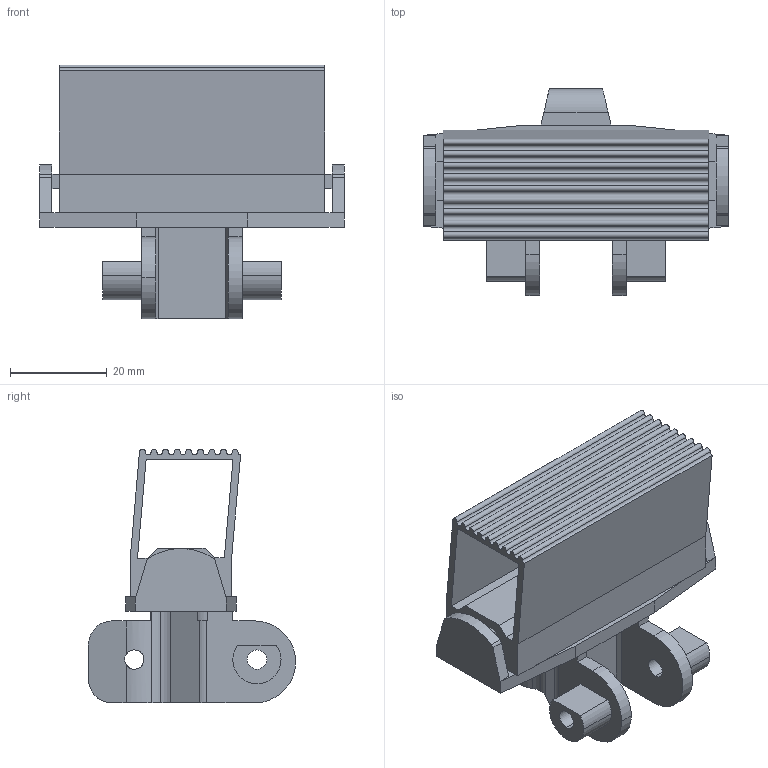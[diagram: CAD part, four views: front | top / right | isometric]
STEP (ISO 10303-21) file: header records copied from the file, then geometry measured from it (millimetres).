
FILE_DESCRIPTION (( 'STEP AP214' ), '1' );
FILE_NAME ('FSWT-5C.STEP', '2011-09-19T12:19:12', ( '.' ), ( '' ), 'SwSTEP 2.0', 'SolidWorks 2010', '' );
FILE_SCHEMA (( 'AUTOMOTIVE_DESIGN' ));
Length unit declared in the file: millimetre
Products named in the file (1): FSWT-5C
Bounding box: 63 x 42.9 x 52.6 mm (x, y, z)
Surface area: 19367.1 mm2 (no closed solid volume)
Topology: 0 solids, 3 shells, 112 faces, 329 edges, 222 vertices
Faces by surface type: plane 60, cylinder 52
Entity records: 4776 total; most frequent: CARTESIAN_POINT 796, ORIENTED_EDGE 627, DIRECTION 627, EDGE_CURVE 329, VERTEX_POINT 222, LINE 217, VECTOR 217, AXIS2_PLACEMENT_3D 205
